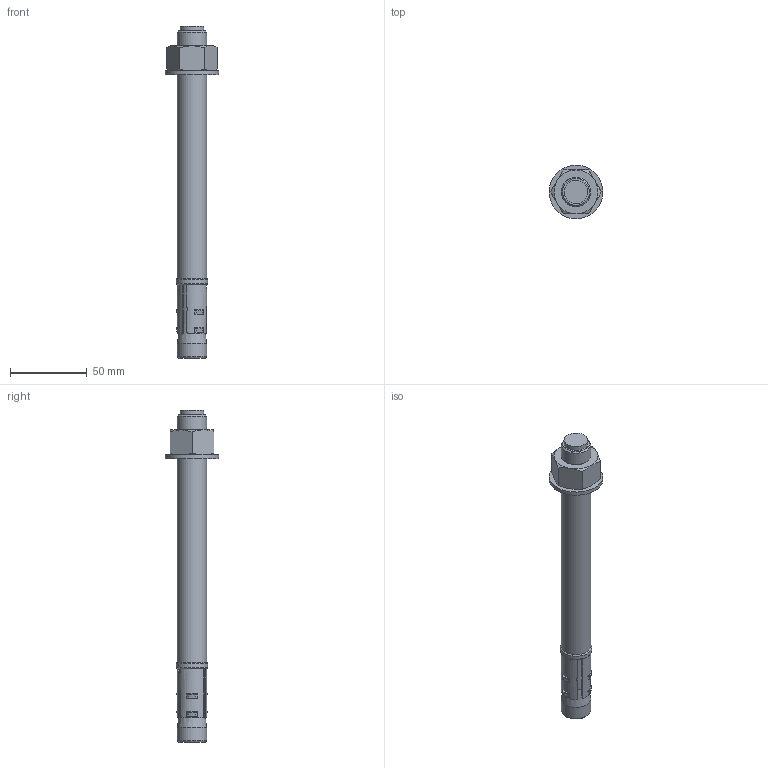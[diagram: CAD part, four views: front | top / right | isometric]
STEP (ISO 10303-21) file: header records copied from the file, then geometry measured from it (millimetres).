
FILE_DESCRIPTION(/* description */ (''),/* implementation_level */ '2;1');
FILE_NAME(/* name */ 'C:\001_Work\Designs\SASE\SASE-0.750 x 8.500 ANCHOR.stp',/* time_stamp */ '2015-10-10T16:54:37-04:00',/* author */ ('rramoutar'),/* organization */ ('Mason Industries Inc.'),/* preprocessor_version */ 'ST-DEVELOPER v15.6',/* originating_system */ 'Autodesk Inventor 2015',/* authorisation */ '');
FILE_SCHEMA (('AUTOMOTIVE_DESIGN { 1 0 10303 214 3 1 1 }'));
Length unit declared in the file: inch
Products named in the file (1): SASE-0.750 x 8.500 ANCHOR
Bounding box: 34.88 x 34.88 x 215.9 mm (x, y, z)
Volume: 68054 mm3; surface area: 19133.1 mm2
Topology: 1 solids, 1 shells, 120 faces, 295 edges, 184 vertices
Faces by surface type: plane 41, bspline 24, cylinder 23, cone 23, torus 9
Full cylindrical faces by diameter (mm): 15.24 x1, 15.875 x1, 17.462 x1, 19.05 x3, 20.625 x1, 20.637 x1, 34.925 x1
Entity records: 4367 total; most frequent: CARTESIAN_POINT 1682, ORIENTED_EDGE 550, DIRECTION 462, EDGE_CURVE 272, AXIS2_PLACEMENT_3D 189, VERTEX_POINT 179, EDGE_LOOP 152, STYLED_ITEM 121
